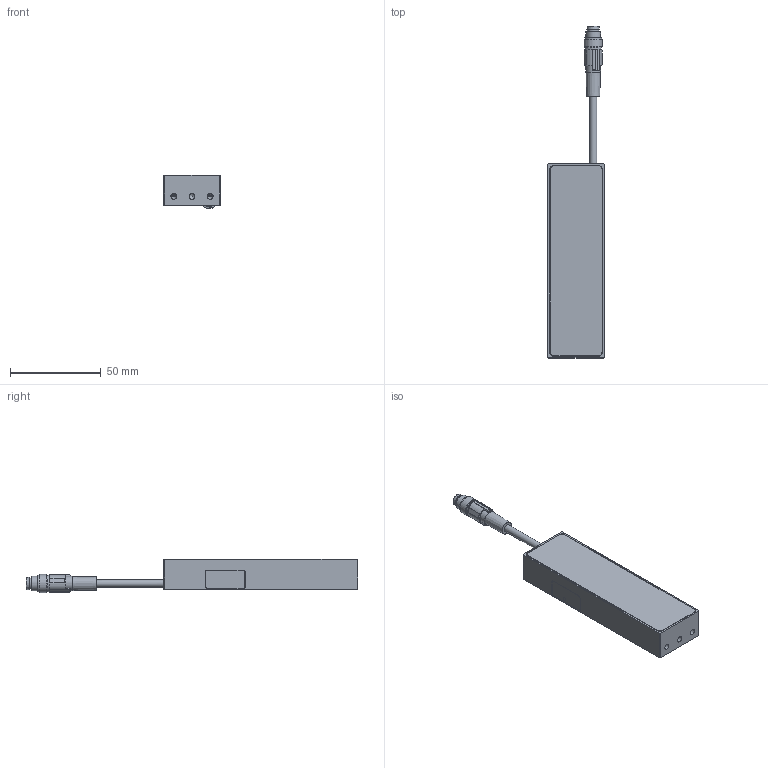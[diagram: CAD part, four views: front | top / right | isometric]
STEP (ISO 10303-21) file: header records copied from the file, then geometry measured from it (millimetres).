
FILE_DESCRIPTION(/* description */ (''),/* implementation_level */ '2;1');
FILE_NAME(/* name */ '10X.0102.YY_BB100',/* time_stamp */ '2024-08-21T09:05:53+02:00',/* author */ (''),/* organization */ ('iiM AG'),/* preprocessor_version */ 'ST-DEVELOPER v16.7',/* originating_system */ 'DEX',/* authorisation */ $);
FILE_SCHEMA (('CONFIG_CONTROL_DESIGN'));
Length unit declared in the file: millimetre
Products named in the file (1): bb100
Bounding box: 31 x 182.86 x 18.32 mm (x, y, z)
Volume: 33998.8 mm3; surface area: 24638.1 mm2
Topology: 2 solids, 2 shells, 206 faces, 538 edges, 350 vertices
Faces by surface type: plane 98, cylinder 91, cone 12, bspline 4, torus 1
Full cylindrical faces by diameter (mm): 1 x4, 2 x1, 3.242 x10, 4.1 x2, 4.2 x2, 5.7 x1, 6.35 x1, 8 x2, 9 x1, 9.3 x2, 10 x1
Entity records: 8197 total; most frequent: CARTESIAN_POINT 1896, DIRECTION 1032, ORIENTED_EDGE 970, EDGE_CURVE 485, AXIS2_PLACEMENT_3D 396, VERTEX_POINT 333, FACE_BOUND 270, EDGE_LOOP 268
